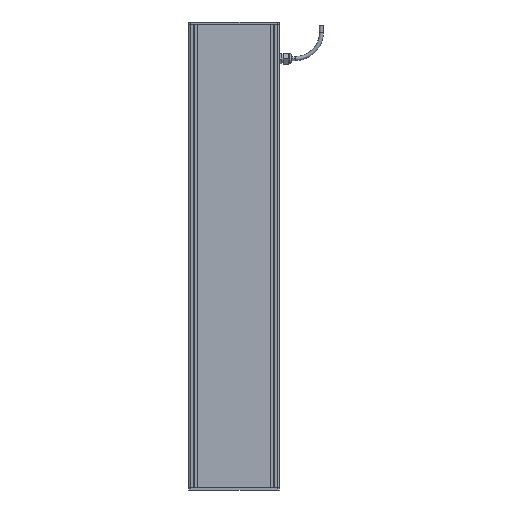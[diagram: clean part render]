
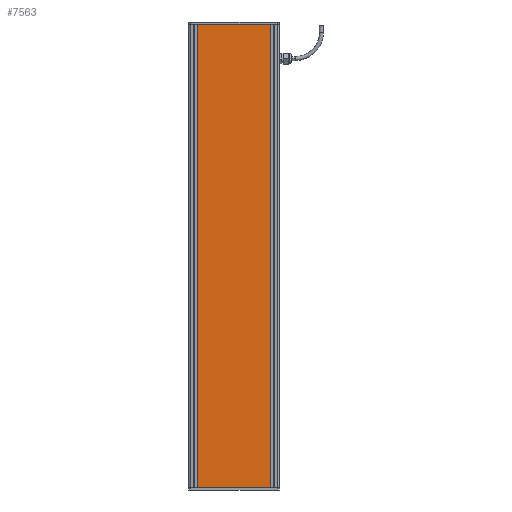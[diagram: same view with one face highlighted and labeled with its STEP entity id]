
A CAD part, front view. The second image highlights one B-rep face of the part: STEP entity #7563.
In plain terms, the highlighted planar face has unit normal (0, -1, 0) as drawn and (0, 0, 1) by its records, which use the part's own axes.
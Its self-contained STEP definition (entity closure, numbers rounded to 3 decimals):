
#9 = DIRECTION ( 'NONE',  ( 1., 0., 0. ) ) ;
#176 = CARTESIAN_POINT ( 'NONE',  ( -9., -950., 0. ) ) ;
#622 = CARTESIAN_POINT ( 'NONE',  ( -159., 0., 0. ) ) ;
#716 = DIRECTION ( 'NONE',  ( -1., 0., 0. ) ) ;
#723 = VERTEX_POINT ( 'NONE', #3192 ) ;
#2551 = ORIENTED_EDGE ( 'NONE', *, *, #7909, .T. ) ;
#2918 = CARTESIAN_POINT ( 'NONE',  ( -9., 0., 0. ) ) ;
#3188 = PLANE ( 'NONE',  #13956 ) ;
#3192 = CARTESIAN_POINT ( 'NONE',  ( -159., -950., 0. ) ) ;
#3679 = VECTOR ( 'NONE', #716, 1000. ) ;
#5313 = FACE_OUTER_BOUND ( 'NONE', #6819, .T. ) ;
#5837 = CARTESIAN_POINT ( 'NONE',  ( -159., 0., 0. ) ) ;
#5866 = EDGE_CURVE ( 'NONE', #723, #14359, #12051, .T. ) ;
#5912 = LINE ( 'NONE', #5837, #13427 ) ;
#6819 = EDGE_LOOP ( 'NONE', ( #15170, #6901, #2551, #8172 ) ) ;
#6901 = ORIENTED_EDGE ( 'NONE', *, *, #9465, .T. ) ;
#7563 = ADVANCED_FACE ( 'NONE', ( #5313 ), #3188, .F. ) ;
#7727 = DIRECTION ( 'NONE',  ( 0., 1., 0. ) ) ;
#7909 = EDGE_CURVE ( 'NONE', #8092, #723, #5912, .T. ) ;
#7985 = CARTESIAN_POINT ( 'NONE',  ( 0., 0., 0. ) ) ;
#8092 = VERTEX_POINT ( 'NONE', #622 ) ;
#8172 = ORIENTED_EDGE ( 'NONE', *, *, #5866, .T. ) ;
#8264 = CARTESIAN_POINT ( 'NONE',  ( -9., 0., 0. ) ) ;
#8921 = DIRECTION ( 'NONE',  ( 0., 0., -1. ) ) ;
#9465 = EDGE_CURVE ( 'NONE', #10649, #8092, #10379, .T. ) ;
#10379 = LINE ( 'NONE', #8264, #3679 ) ;
#10649 = VERTEX_POINT ( 'NONE', #13082 ) ;
#11760 = EDGE_CURVE ( 'NONE', #14359, #10649, #13695, .T. ) ;
#12051 = LINE ( 'NONE', #176, #13294 ) ;
#12992 = DIRECTION ( 'NONE',  ( 0., -1., 0. ) ) ;
#13082 = CARTESIAN_POINT ( 'NONE',  ( -9., 0., 0. ) ) ;
#13294 = VECTOR ( 'NONE', #9, 1000. ) ;
#13427 = VECTOR ( 'NONE', #12992, 1000. ) ;
#13695 = LINE ( 'NONE', #2918, #14876 ) ;
#13956 = AXIS2_PLACEMENT_3D ( 'NONE', #7985, #8921, #14993 ) ;
#14359 = VERTEX_POINT ( 'NONE', #14568 ) ;
#14568 = CARTESIAN_POINT ( 'NONE',  ( -9., -950., 0. ) ) ;
#14876 = VECTOR ( 'NONE', #7727, 1000. ) ;
#14993 = DIRECTION ( 'NONE',  ( -1., 0., 0. ) ) ;
#15170 = ORIENTED_EDGE ( 'NONE', *, *, #11760, .T. ) ;
